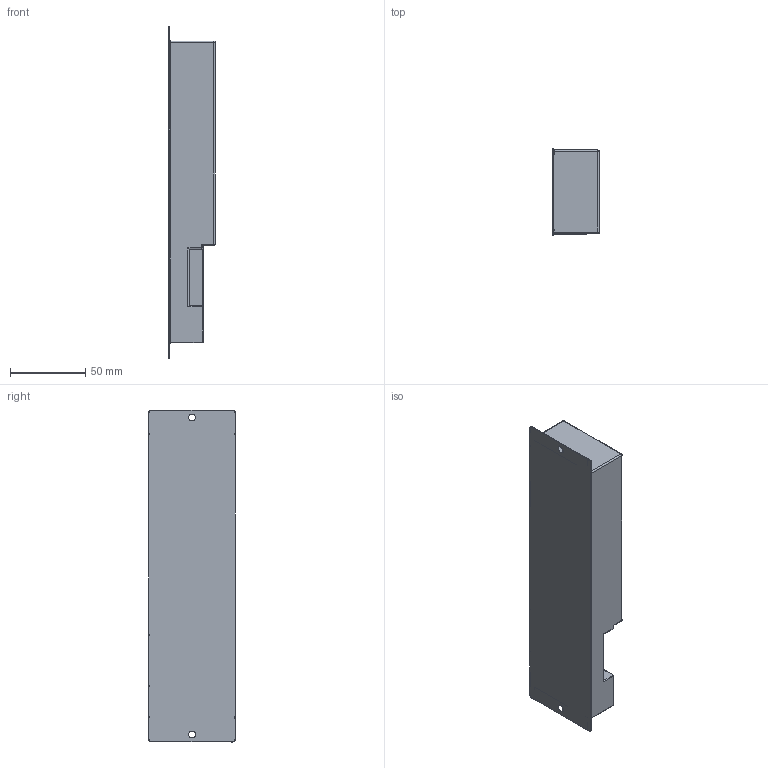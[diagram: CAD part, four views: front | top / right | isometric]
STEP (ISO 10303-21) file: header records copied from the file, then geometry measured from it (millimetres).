
FILE_DESCRIPTION((''),'2;1');
FILE_NAME('S:\Engineering\Drawings\3D drawings\3D cards\IB-E04.stp','2016-02-12T14:04:37',('aisidoro'),(''),'Autodesk Inventor 2012','Autodesk Inventor 2012','');
FILE_SCHEMA(('AUTOMOTIVE_DESIGN { 1 0 10303 214 1 1 1 1 }'));
Length unit declared in the file: millimetre
Products named in the file (1): IB-E04
Bounding box: 30.8 x 57.4 x 220 mm (x, y, z)
Volume: 297605.6 mm3; surface area: 42168.6 mm2
Topology: 1 solids, 1 shells, 199 faces, 486 edges, 283 vertices
Faces by surface type: cylinder 91, plane 61, torus 24, sphere 18, bspline 5
Full cylindrical faces by diameter (mm): 4.5 x2
Entity records: 6080 total; most frequent: CARTESIAN_POINT 1207, DIRECTION 1032, ORIENTED_EDGE 934, EDGE_CURVE 467, AXIS2_PLACEMENT_3D 389, VERTEX_POINT 275, VECTOR 254, LINE 254
